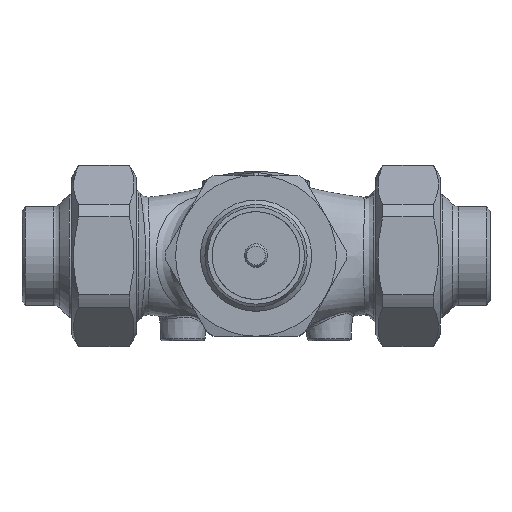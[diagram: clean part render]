
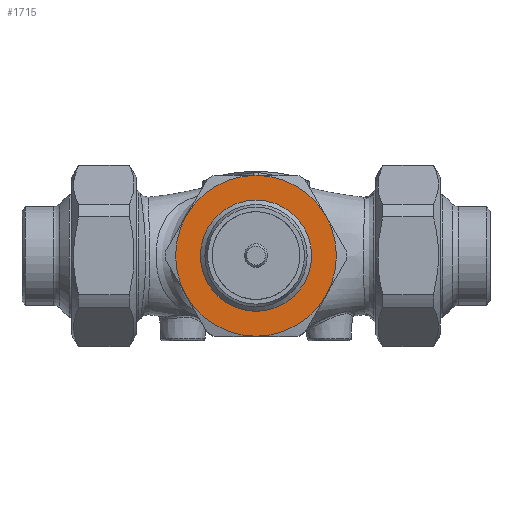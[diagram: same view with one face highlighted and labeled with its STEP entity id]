
A CAD part, top view. The second image highlights one B-rep face of the part: STEP entity #1715.
In plain terms, the highlighted planar face has unit normal (0, 0, 1).
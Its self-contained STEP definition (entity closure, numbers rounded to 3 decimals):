
#920=PLANE('',#10349);
#1094=FACE_BOUND('',#3103,.T.);
#1095=FACE_BOUND('',#3104,.T.);
#1715=ADVANCED_FACE('',(#1094,#1095),#920,.T.);
#3103=EDGE_LOOP('',(#6253));
#3104=EDGE_LOOP('',(#6254,#6255,#6256,#6257,#6258,#6259));
#3662=CIRCLE('',#10313,27.5);
#3664=CIRCLE('',#10316,27.5);
#3665=CIRCLE('',#10318,27.5);
#3668=CIRCLE('',#10322,27.5);
#3670=CIRCLE('',#10325,27.5);
#3677=CIRCLE('',#10343,27.5);
#3679=CIRCLE('',#10348,19.);
#6253=ORIENTED_EDGE('',*,*,#8581,.F.);
#6254=ORIENTED_EDGE('',*,*,#8530,.T.);
#6255=ORIENTED_EDGE('',*,*,#8534,.T.);
#6256=ORIENTED_EDGE('',*,*,#8542,.T.);
#6257=ORIENTED_EDGE('',*,*,#8546,.T.);
#6258=ORIENTED_EDGE('',*,*,#8574,.T.);
#6259=ORIENTED_EDGE('',*,*,#8536,.T.);
#7209=VERTEX_POINT('',#28641);
#7211=VERTEX_POINT('',#28648);
#7214=VERTEX_POINT('',#28662);
#7216=VERTEX_POINT('',#28671);
#7220=VERTEX_POINT('',#28690);
#7223=VERTEX_POINT('',#28704);
#7238=VERTEX_POINT('',#28811);
#8530=EDGE_CURVE('',#7209,#7211,#3662,.T.);
#8534=EDGE_CURVE('',#7211,#7214,#3664,.T.);
#8536=EDGE_CURVE('',#7216,#7209,#3665,.T.);
#8542=EDGE_CURVE('',#7214,#7220,#3668,.T.);
#8546=EDGE_CURVE('',#7220,#7223,#3670,.T.);
#8574=EDGE_CURVE('',#7223,#7216,#3677,.T.);
#8581=EDGE_CURVE('',#7238,#7238,#3679,.T.);
#10313=AXIS2_PLACEMENT_3D('',#28649,#12605,#12606);
#10316=AXIS2_PLACEMENT_3D('',#28663,#12611,#12612);
#10318=AXIS2_PLACEMENT_3D('',#28670,#12615,#12616);
#10322=AXIS2_PLACEMENT_3D('',#28691,#12623,#12624);
#10325=AXIS2_PLACEMENT_3D('',#28705,#12629,#12630);
#10343=AXIS2_PLACEMENT_3D('',#28789,#12675,#12676);
#10348=AXIS2_PLACEMENT_3D('',#28810,#12687,#12688);
#10349=AXIS2_PLACEMENT_3D('',#28812,#12689,#12690);
#12605=DIRECTION('',(0.,0.,1.));
#12606=DIRECTION('',(-1.,0.,0.));
#12611=DIRECTION('',(0.,0.,1.));
#12612=DIRECTION('',(-1.,0.,0.));
#12615=DIRECTION('',(0.,0.,1.));
#12616=DIRECTION('',(-1.,0.,0.));
#12623=DIRECTION('',(0.,0.,1.));
#12624=DIRECTION('',(-1.,0.,0.));
#12629=DIRECTION('',(0.,0.,1.));
#12630=DIRECTION('',(-1.,0.,0.));
#12675=DIRECTION('',(0.,0.,1.));
#12676=DIRECTION('',(-1.,0.,0.));
#12687=DIRECTION('',(0.,0.,1.));
#12688=DIRECTION('',(1.,0.,0.));
#12689=DIRECTION('',(0.,0.,1.));
#12690=DIRECTION('',(-1.,0.,0.));
#28641=CARTESIAN_POINT('',(-23.816,-13.75,48.));
#28648=CARTESIAN_POINT('',(0.,-27.5,48.));
#28649=CARTESIAN_POINT('',(0.,0.,48.));
#28662=CARTESIAN_POINT('',(23.816,-13.75,48.));
#28663=CARTESIAN_POINT('',(0.,0.,48.));
#28670=CARTESIAN_POINT('',(0.,0.,48.));
#28671=CARTESIAN_POINT('',(-23.816,13.75,48.));
#28690=CARTESIAN_POINT('',(23.816,13.75,48.));
#28691=CARTESIAN_POINT('',(0.,0.,48.));
#28704=CARTESIAN_POINT('',(0.,27.5,48.));
#28705=CARTESIAN_POINT('',(0.,0.,48.));
#28789=CARTESIAN_POINT('',(0.,0.,48.));
#28810=CARTESIAN_POINT('',(0.,0.,48.));
#28811=CARTESIAN_POINT('',(19.,0.,48.));
#28812=CARTESIAN_POINT('',(-19.5,0.,48.));
